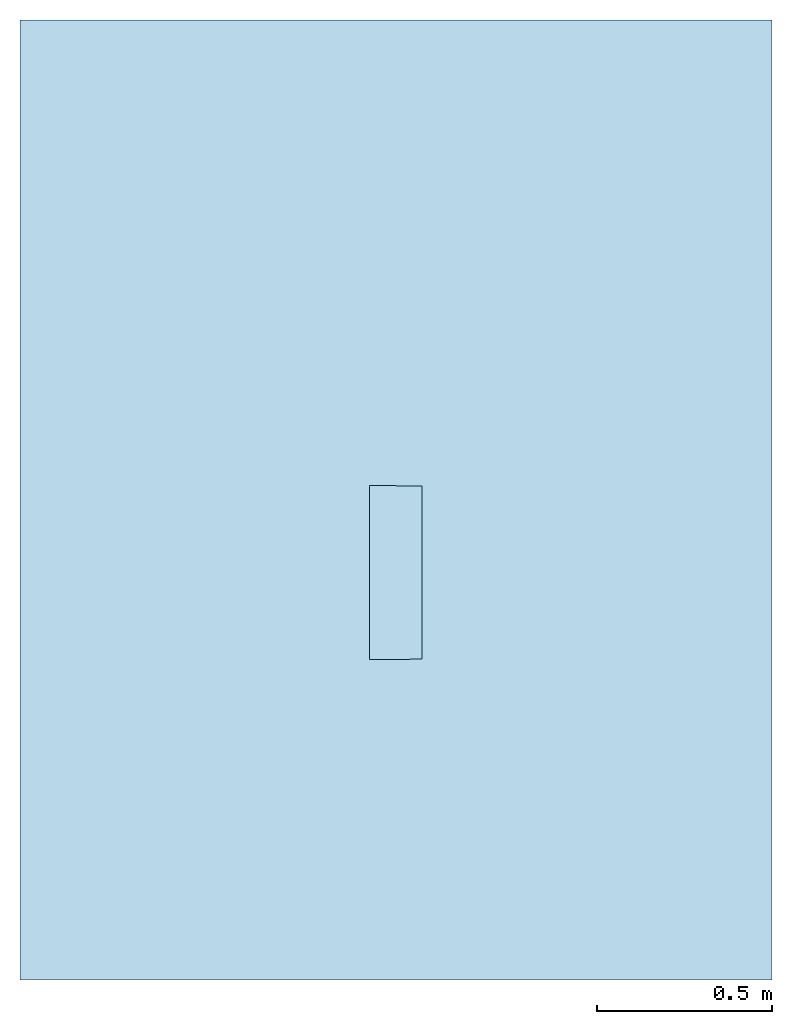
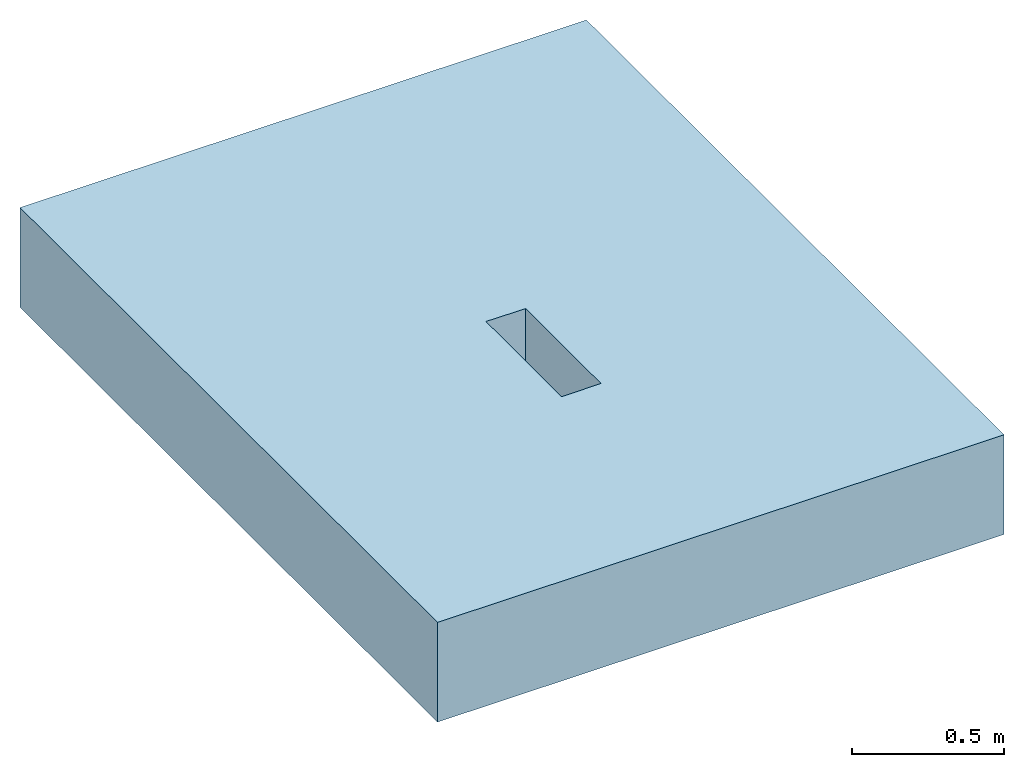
# One storey: 1 slab, 3 openings.
"""IFC2X3 building model written with IfcOpenShell, lengths in millimetres."""

from ifc_helpers import new_model, entity, si_unit, converted_unit, direction, frame, frame_2d, origin, origin_2d_with_axis, place, context, subcontext, project, spatial, polyline, rectangle, outline, extrude, material, layer, layer_set, layer_usage, element, save


model = new_model("IFC2X3")

# Units and contexts
model_context = context("Model", 3, precision=1e-06, world=origin(), true_north=direction((2.0, 6.12303176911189e-17, 1.0)))
context_of_model = context(None, 3, precision=1e-06, world=origin(), true_north=direction((2.0, 6.12303176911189e-17, 1.0)))
body_context = subcontext(model_context, "Body", "Model", "MODEL_VIEW")
ifc_project = project(units=[si_unit("LENGTHUNIT", "METRE", prefix="MILLI"), si_unit("AREAUNIT", "SQUARE_METRE", prefix="MILLI"), si_unit("VOLUMEUNIT", "CUBIC_METRE", prefix="MILLI"), converted_unit("PLANEANGLEUNIT", "DEGREE", entity("IfcRatioMeasure", 0.0174532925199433), si_unit("PLANEANGLEUNIT", "RADIAN"), dimensions=[0, 0, 0, 0, 0, 0, 0]), si_unit("TIMEUNIT", "SECOND")], contexts=[model_context, context_of_model])

# Site, building, storey
site_placement = place(None, origin())
site = spatial("IfcSite", under=ifc_project, at=site_placement, Name="Default", CompositionType="ELEMENT")
building_placement = place(site_placement, origin())
building = spatial("IfcBuilding", under=site, at=building_placement, CompositionType="ELEMENT")
storey_placement = place(building_placement, origin())
storey = spatial("IfcBuildingStorey", under=building, at=storey_placement, Name="Level 1", CompositionType="ELEMENT", Elevation=0.0)

# Slab, openings
ifc_material = material(Name="Earth")
ifc_layer = layer(ifc_material, 400.0)
ifc_layer_set = layer_set([ifc_layer], Name="Floor:Generic Floor - 400mm")
ifc_layer_usage = layer_usage(ifc_layer_set, "AXIS3", "POSITIVE", 0.0)
slab_placement = place(storey_placement, frame((-6757.99544306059, -11162.1166238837, -400.0)))
slab = element("IfcSlab", 1, at=slab_placement, inside=storey, material=ifc_layer_usage, Name="Floor:Generic Floor - 400mm", ObjectType="Floor:Generic Floor - 400mm", PredefinedType="FLOOR", context=body_context, shape_type="SweptSolid", body=[
    extrude(rectangle(XDim=2745.0, YDim=2150.0, at=frame_2d((0.0, 0.0), x_axis=(0.0, 1.0))), frame((1075.0, 1372.5, 400.0), z_axis=(0.0, 0.0, -1.0), x_axis=(-1.0, 0.0, 0.0)), (0.0, 0.0, 1.0), 400.0),
])
opening_1_placement = place(slab_placement, origin())
element("IfcOpeningElement", 2, at=opening_1_placement, cuts=slab, ObjectType="Opening", context=body_context, shape_type="SweptSolid", body=[
    extrude(outline(polyline([(-133.518702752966, -87.7019530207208), (26.4562972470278, -87.7019530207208), (26.4562972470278, -70.7019530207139), (26.8490923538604, -70.7019530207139), (26.8490923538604, 29.6156241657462), (63.5617749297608, 59.2980469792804), (33.0157590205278, 59.2980469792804), (63.8490923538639, 84.2980469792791), (-133.518702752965, 84.2980469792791), (-133.518702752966, -87.7019530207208)])), frame((1000.0, 1024.29804697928, -1466.48129724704), z_axis=(1.0, 0.0, 0.0), x_axis=(0.0, 0.0, 1.0)), (0.0, 0.0, 1.0), 149.999999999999),
])
opening_2_placement = place(slab_placement, origin())
element("IfcOpeningElement", 3, at=opening_2_placement, cuts=slab, ObjectType="Opening", context=body_context, shape_type="SweptSolid", body=[
    extrude(outline(polyline([(-249.0, -75.0), (249.0, -75.0), (247.5, 75.0), (-247.5, 75.0), (-249.0, -75.0)])), frame((1075.0, 1165.0, 45.0), z_axis=(0.0, 0.0, 1.0), x_axis=(0.0, -1.0, 0.0)), (0.0, 0.0, 1.0), 355.0),
])
opening_3_placement = place(slab_placement, origin())
element("IfcOpeningElement", 4, at=opening_3_placement, cuts=slab, ObjectType="Opening", context=body_context, shape_type="SweptSolid", body=[
    extrude(rectangle(XDim=149.999999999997, YDim=502.999999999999, at=origin_2d_with_axis()), frame((1075.0, 1166.5, -4161.0), z_axis=(0.0, 0.0, 1.0), x_axis=(-1.0, 0.0, 0.0)), (0.0, 0.0, 1.0), 5.99999999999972),
])

save(model, "model.ifc")
